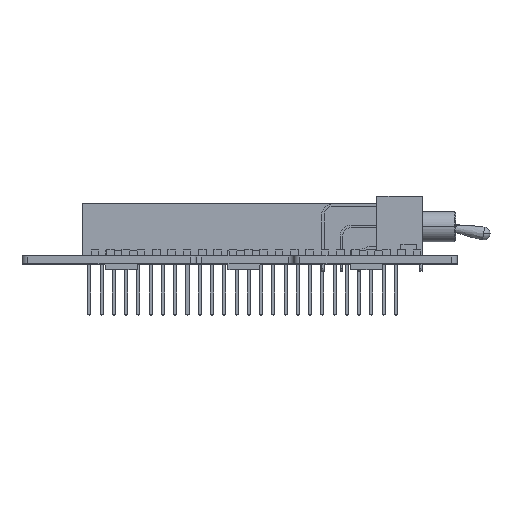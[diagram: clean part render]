
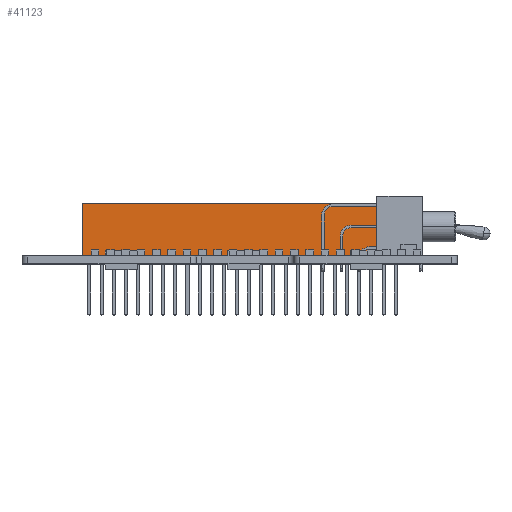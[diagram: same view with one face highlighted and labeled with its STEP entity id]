
A CAD part, top view. The second image highlights one B-rep face of the part: STEP entity #41123.
In plain terms, the highlighted planar face has unit normal (0, 0, 1).
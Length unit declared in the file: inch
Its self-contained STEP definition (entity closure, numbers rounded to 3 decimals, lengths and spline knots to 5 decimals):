
#1332 = CARTESIAN_POINT ( 'NONE',  ( -1.285, 0.031, -1.33875 ) ) ;
#2253 = CARTESIAN_POINT ( 'NONE',  ( -1.285, 0.466, -1.33875 ) ) ;
#3951 = EDGE_CURVE ( 'NONE', #90008, #95923, #67429, .T. ) ;
#4905 = DIRECTION ( 'NONE',  ( 0., 0., -1. ) ) ;
#5920 = LINE ( 'NONE', #92169, #68670 ) ;
#9345 = VECTOR ( 'NONE', #41352, 39.37008 ) ;
#15926 = VECTOR ( 'NONE', #32805, 39.37008 ) ;
#28202 = EDGE_CURVE ( 'NONE', #90008, #81749, #56163, .T. ) ;
#31816 = EDGE_LOOP ( 'NONE', ( #54626, #77202, #64936, #40823 ) ) ;
#32805 = DIRECTION ( 'NONE',  ( 0., -1., 0. ) ) ;
#35841 = CARTESIAN_POINT ( 'NONE',  ( -1.285, 0.466, -1.33875 ) ) ;
#40823 = ORIENTED_EDGE ( 'NONE', *, *, #28202, .T. ) ;
#41123 = ADVANCED_FACE ( 'NONE', ( #63061 ), #57581, .F. ) ;
#41352 = DIRECTION ( 'NONE',  ( 1., 0., 0. ) ) ;
#43841 = VECTOR ( 'NONE', #77234, 39.37008 ) ;
#46793 = DIRECTION ( 'NONE',  ( 0., -1., 0. ) ) ;
#50340 = CARTESIAN_POINT ( 'NONE',  ( -1.285, 0.466, -1.33875 ) ) ;
#51866 = CARTESIAN_POINT ( 'NONE',  ( 1.335, 0.031, -1.33875 ) ) ;
#52066 = CARTESIAN_POINT ( 'NONE',  ( 1.335, 0.466, -1.33875 ) ) ;
#54626 = ORIENTED_EDGE ( 'NONE', *, *, #95586, .T. ) ;
#56163 = LINE ( 'NONE', #2253, #15926 ) ;
#57077 = AXIS2_PLACEMENT_3D ( 'NONE', #50340, #4905, #57910 ) ;
#57581 = PLANE ( 'NONE',  #57077 ) ;
#57910 = DIRECTION ( 'NONE',  ( -1., 0., 0. ) ) ;
#63061 = FACE_OUTER_BOUND ( 'NONE', #31816, .T. ) ;
#64936 = ORIENTED_EDGE ( 'NONE', *, *, #3951, .F. ) ;
#67429 = LINE ( 'NONE', #95967, #9345 ) ;
#68367 = CARTESIAN_POINT ( 'NONE',  ( -1.285, 0.031, -1.33875 ) ) ;
#68670 = VECTOR ( 'NONE', #46793, 39.37008 ) ;
#77202 = ORIENTED_EDGE ( 'NONE', *, *, #95572, .F. ) ;
#77234 = DIRECTION ( 'NONE',  ( 1., 0., 0. ) ) ;
#78588 = VERTEX_POINT ( 'NONE', #51866 ) ;
#81749 = VERTEX_POINT ( 'NONE', #68367 ) ;
#84088 = LINE ( 'NONE', #1332, #43841 ) ;
#90008 = VERTEX_POINT ( 'NONE', #35841 ) ;
#92169 = CARTESIAN_POINT ( 'NONE',  ( 1.335, 0.466, -1.33875 ) ) ;
#95572 = EDGE_CURVE ( 'NONE', #95923, #78588, #5920, .T. ) ;
#95586 = EDGE_CURVE ( 'NONE', #81749, #78588, #84088, .T. ) ;
#95923 = VERTEX_POINT ( 'NONE', #52066 ) ;
#95967 = CARTESIAN_POINT ( 'NONE',  ( -1.285, 0.466, -1.33875 ) ) ;
